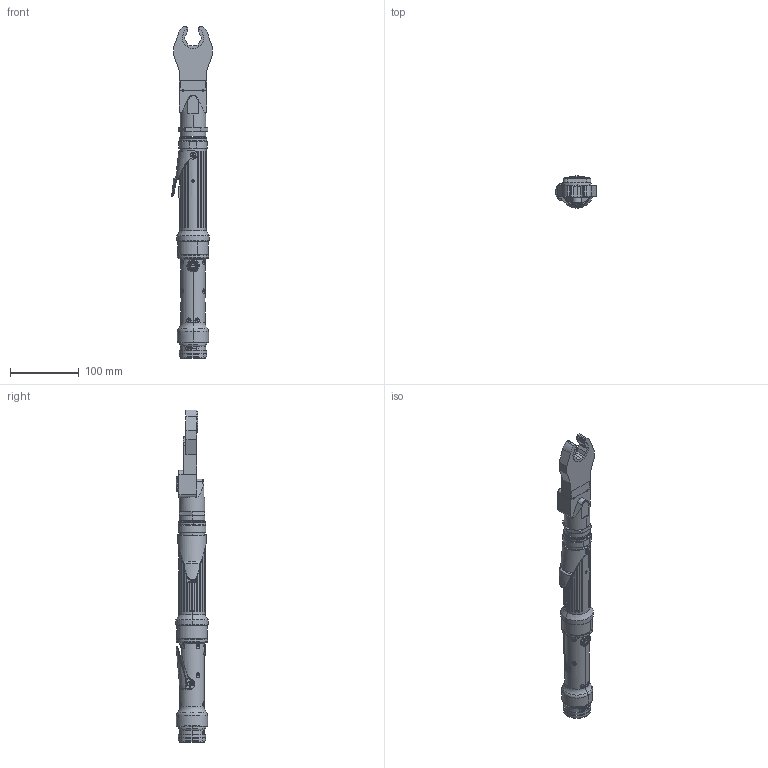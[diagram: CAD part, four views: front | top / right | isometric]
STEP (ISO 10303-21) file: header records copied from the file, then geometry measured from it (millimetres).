
FILE_DESCRIPTION (( 'STEP AP214' ), '1' );
FILE_NAME ('AET32035CDL.STEP', '2016-04-19T21:46:46', ( 'AIMCO' ), ( '' ), 'SwSTEP 2.0', 'SolidWorks 2016', '' );
FILE_SCHEMA (( 'AUTOMOTIVE_DESIGN' ));
Length unit declared in the file: inch
Products named in the file (1): AET32035CDL
Bounding box: 58.96 x 46.99 x 483.03 mm (x, y, z)
Surface area: 98330.4 mm2 (no closed solid volume)
Topology: 0 solids, 107 shells, 1024 faces, 3671 edges, 2604 vertices
Faces by surface type: plane 283, cylinder 251, cone 164, bspline 157, torus 133, sphere 36
Entity records: 70698 total; most frequent: CARTESIAN_POINT 29102, ORIENTED_EDGE 5496, DIRECTION 5321, EDGE_CURVE 3611, VERTEX_POINT 2574, AXIS2_PLACEMENT_3D 2062, VECTOR 1197, LINE 1197
